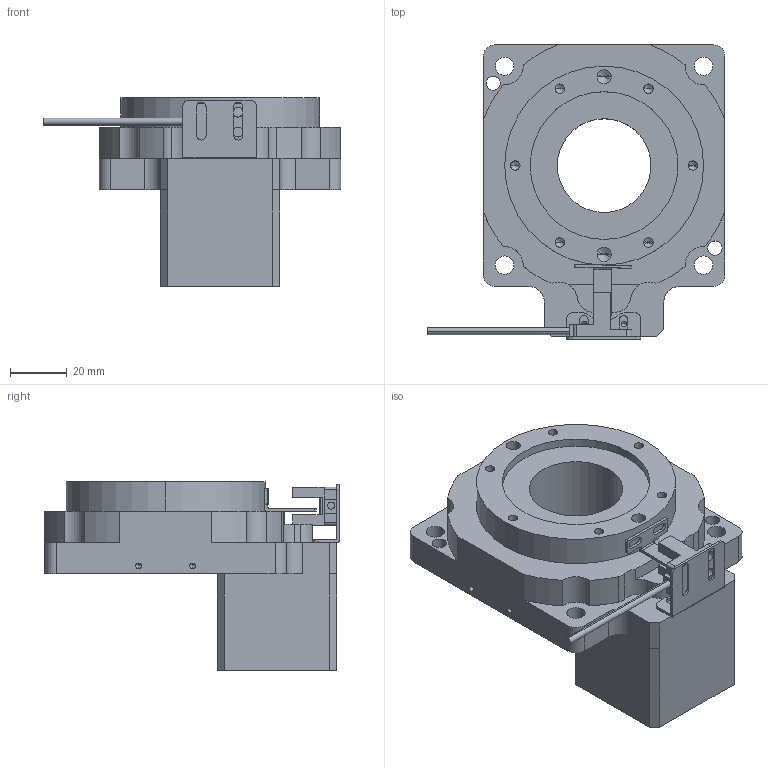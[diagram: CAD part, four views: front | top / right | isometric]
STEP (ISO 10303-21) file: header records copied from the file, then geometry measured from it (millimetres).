
FILE_DESCRIPTION (( 'STEP AP203' ), '1' );
FILE_NAME ('RTN85-18K-8-30-45-M3.STEP', '2024-05-21T09:55:59', ( '' ), ( '' ), 'SwSTEP 2.0', 'SolidWorks 2023', '' );
FILE_SCHEMA (( 'CONFIG_CONTROL_DESIGN' ));
Length unit declared in the file: millimetre
Products named in the file (1): RTN85-18K-8-30-45-M3
Bounding box: 104.79 x 103.55 x 66.5 mm (x, y, z)
Volume: 219543.1 mm3; surface area: 40124.8 mm2
Topology: 4 solids, 6 shells, 284 faces, 755 edges, 470 vertices
Faces by surface type: cylinder 128, plane 116, cone 40
Entity records: 8684 total; most frequent: DIRECTION 1543, CARTESIAN_POINT 1470, ORIENTED_EDGE 1430, EDGE_CURVE 715, AXIS2_PLACEMENT_3D 543, VERTEX_POINT 470, LINE 457, VECTOR 457
